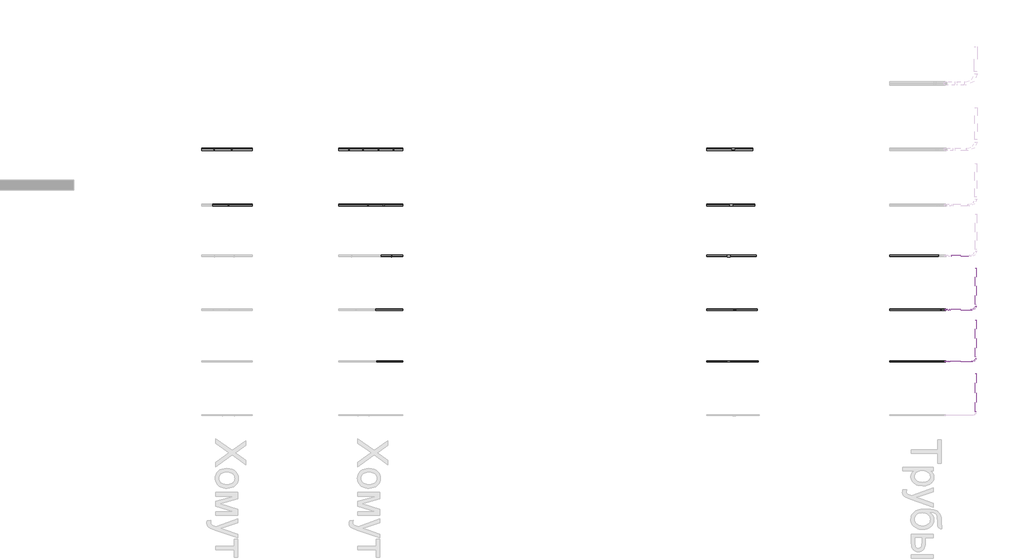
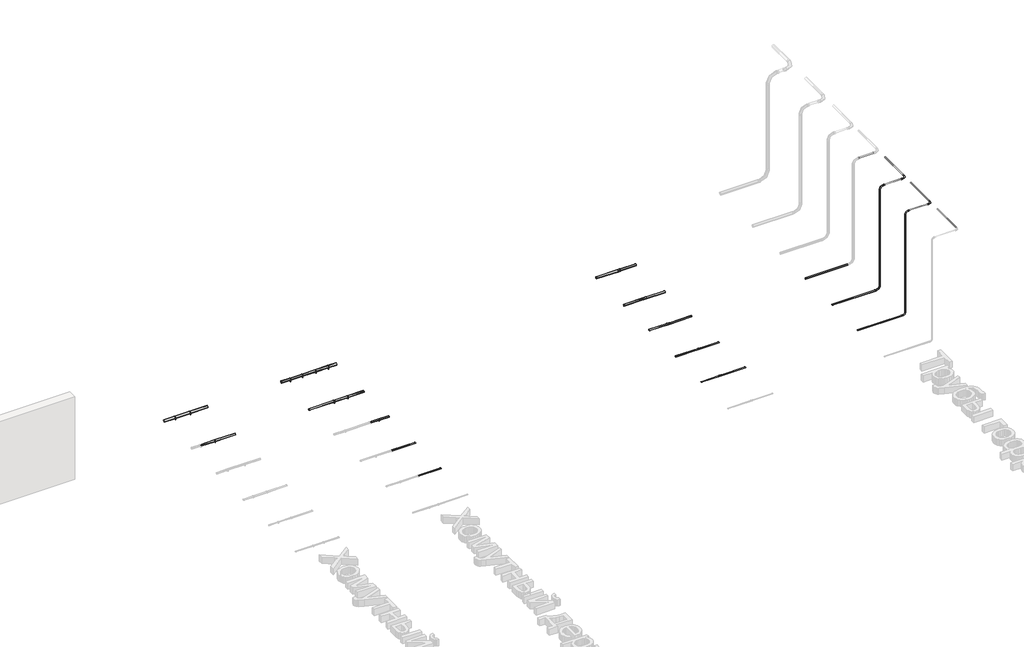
# One storey, part 8 of 33: 38 cable carrier segments, 21 cable carrier fittings.
"""IFC4 building model written with IfcOpenShell, lengths in millimetres."""

from ifc_helpers import new_model, si_unit, point, frame, frame_2d, origin, place, context, project, spatial, circle_curve, trimmed, segment, composite_curve, outline, extrude, transform, mapped, element, save
from components import cable_carrier_fitting_26b4114a, cable_carrier_fitting_255bd7b2, cable_carrier_fitting_a83b23f9, cable_carrier_fitting_802f24f7, cable_carrier_fitting_33a13964, cable_carrier_fitting_f47d66c9, cable_carrier_fitting_301d3040, cable_carrier_fitting_0edfbe70, cable_carrier_fitting_1836c814, cable_carrier_fitting_958c0bbb, cable_carrier_fitting_216e78f6, cable_carrier_fitting_60fb8931

model = new_model("IFC4")

# Units and contexts
model_context = context("Model", 3, world=origin())
ifc_project = project(units=[si_unit("LENGTHUNIT", "METRE", prefix="MILLI")], contexts=[model_context])

# Site, building, storey
site = spatial("IfcSite", under=ifc_project)
building = spatial("IfcBuilding", under=site)
storey = spatial("IfcBuildingStorey", under=building, Name="Уровень 1", Elevation=0.0)

# Cable carrier fittings
placement = place(None, origin())
cable_carrier_fitting_shape = cable_carrier_fitting_26b4114a(model_context)
element("IfcCableCarrierFitting", 1, ObjectType="Муфта для гофрированных труб, прозрачная GFLEX D ИЭК : CTA10D-GFLEX20-K08-100", at=placement, inside=storey, context=model_context, shape_type="MappedRepresentation", body=[
    mapped(cable_carrier_fitting_shape, transform((70826.5318866, 1027.6255993, 45.929251), x_axis=(1.0, 0.0, 0.0), y_axis=(0.0, 1.0, 0.0), z_axis=(0.0, 0.0, 1.0))),
])
cable_carrier_fitting_2_shape = cable_carrier_fitting_255bd7b2(model_context)
element("IfcCableCarrierFitting", 2, ObjectType="Муфта для гофрированных труб, прозрачная GFLEX D ИЭК : CTA10D-GFLEX25-K08-050", at=placement, inside=storey, context=model_context, shape_type="MappedRepresentation", body=[
    mapped(cable_carrier_fitting_2_shape, transform((70942.3626967, 2047.6255993, 45.929251), x_axis=(1.0, 0.0, 0.0), y_axis=(0.0, 1.0, 0.0), z_axis=(0.0, 0.0, 1.0))),
])
cable_carrier_fitting_3_shape = cable_carrier_fitting_a83b23f9(model_context)
element("IfcCableCarrierFitting", 3, ObjectType="Муфта для гофрированных труб, прозрачная GFLEX D ИЭК : CTA10D-GFLEX32-K08-025", at=placement, inside=storey, context=model_context, shape_type="MappedRepresentation", body=[
    mapped(cable_carrier_fitting_3_shape, transform((70831.5376839, 3107.6255993, 45.929251), x_axis=(1.0, 0.0, 0.0), y_axis=(0.0, 1.0, 0.0), z_axis=(0.0, 0.0, 1.0))),
])
cable_carrier_fitting_4_shape = cable_carrier_fitting_802f24f7(model_context)
element("IfcCableCarrierFitting", 4, ObjectType="Муфта для гофрированных труб, прозрачная GFLEX D ИЭК : CTA10D-GFLEX40-K08-020", at=placement, inside=storey, context=model_context, shape_type="MappedRepresentation", body=[
    mapped(cable_carrier_fitting_4_shape, transform((70872.466935, 4107.6255993, 45.929251), x_axis=(1.0, 0.0, 0.0), y_axis=(0.0, 1.0, 0.0), z_axis=(0.0, 0.0, 1.0))),
])
cable_carrier_fitting_5_shape = cable_carrier_fitting_33a13964(model_context)
element("IfcCableCarrierFitting", 5, ObjectType="Муфта для гофрированных труб, прозрачная GFLEX D ИЭК : CTA10D-GFLEX50-K08-020", at=placement, inside=storey, context=model_context, shape_type="MappedRepresentation", body=[
    mapped(cable_carrier_fitting_5_shape, transform((70913.396186, 5207.6255993, 45.929251), x_axis=(1.0, 0.0, 0.0), y_axis=(0.0, 1.0, 0.0), z_axis=(0.0, 0.0, 1.0))),
])
cable_carrier_fitting_6_shape = cable_carrier_fitting_f47d66c9(model_context)
element("IfcCableCarrierFitting", 6, ObjectType="Хомутный держатель CFC : CTA10D-CFC40-K41-050", at=placement, inside=storey, context=model_context, shape_type="MappedRepresentation", body=[
    mapped(cable_carrier_fitting_6_shape, transform((60976.3966923, 4107.6255993, 45.929251), x_axis=(-1.0, 0.0, 0.0), y_axis=(0.0, -1.0, 0.0), z_axis=(0.0, 0.0, 1.0))),
])
cable_carrier_fitting_7_shape = cable_carrier_fitting_301d3040(model_context)
element("IfcCableCarrierFitting", 7, ObjectType="Хомутный держатель CFC : CTA10D-CFC50-K41-025", at=placement, inside=storey, context=model_context, shape_type="MappedRepresentation", body=[
    mapped(cable_carrier_fitting_7_shape, transform((60691.9225515, 5207.6255993, 45.929251), x_axis=(-1.0, 0.0, 0.0), y_axis=(0.0, -1.0, 0.0), z_axis=(0.0, 0.0, 1.0))),
])
element("IfcCableCarrierFitting", 8, ObjectType="Хомутный держатель CFC : CTA10D-CFC50-K41-025", at=placement, inside=storey, context=model_context, shape_type="MappedRepresentation", body=[
    mapped(cable_carrier_fitting_7_shape, transform((61037.0378446, 5207.6255993, 45.929251), x_axis=(-1.0, 0.0, 0.0), y_axis=(0.0, -1.0, 0.0), z_axis=(0.0, 0.0, 1.0))),
])
cable_carrier_fitting_8_shape = cable_carrier_fitting_0edfbe70(model_context)
element("IfcCableCarrierFitting", 9, ObjectType="Хомутный держатель со стяжкой CFF2 32-63 мм IEK : Хомутный держатель со стяжкой CFF2 32-63 мм IEK", at=placement, inside=storey, context=model_context, shape_type="MappedRepresentation", body=[
    mapped(cable_carrier_fitting_8_shape, transform((64185.9173731, 3107.6255993, 45.929251), x_axis=(-1.0, 0.0, 0.0), y_axis=(0.0, -1.0, 0.0), z_axis=(0.0, 0.0, 1.0))),
])
cable_carrier_fitting_9_shape = cable_carrier_fitting_1836c814(model_context)
element("IfcCableCarrierFitting", 10, ObjectType="Хомутный держатель со стяжкой CFF2 32-63 мм IEK : Хомутный держатель со стяжкой CFF2 32-63 мм IEK", at=placement, inside=storey, context=model_context, shape_type="MappedRepresentation", body=[
    mapped(cable_carrier_fitting_9_shape, transform((64032.8333887, 4107.6255993, 45.929251), x_axis=(-1.0, 0.0, 0.0), y_axis=(0.0, -1.0, 0.0), z_axis=(0.0, 0.0, 1.0))),
])
element("IfcCableCarrierFitting", 11, ObjectType="Хомутный держатель со стяжкой CFF2 32-63 мм IEK : Хомутный держатель со стяжкой CFF2 32-63 мм IEK", at=placement, inside=storey, context=model_context, shape_type="MappedRepresentation", body=[
    mapped(cable_carrier_fitting_9_shape, transform((63720.3903317, 4107.6255993, 45.929251), x_axis=(-1.0, 0.0, 0.0), y_axis=(0.0, -1.0, 0.0), z_axis=(0.0, 0.0, 1.0))),
])
cable_carrier_fitting_10_shape = cable_carrier_fitting_958c0bbb(model_context)
element("IfcCableCarrierFitting", 12, ObjectType="Хомутный держатель со стяжкой CFF2 32-63 мм IEK : Хомутный держатель со стяжкой CFF2 32-63 мм IEK", at=placement, inside=storey, context=model_context, shape_type="MappedRepresentation", body=[
    mapped(cable_carrier_fitting_10_shape, transform((64220.7092234, 5207.6255993, 45.929251), x_axis=(-1.0, 0.0, 0.0), y_axis=(0.0, -1.0, 0.0), z_axis=(0.0, 0.0, 1.0))),
])
element("IfcCableCarrierFitting", 13, ObjectType="Хомутный держатель со стяжкой CFF2 32-63 мм IEK : Хомутный держатель со стяжкой CFF2 32-63 мм IEK", at=placement, inside=storey, context=model_context, shape_type="MappedRepresentation", body=[
    mapped(cable_carrier_fitting_10_shape, transform((63928.2429132, 5207.6255993, 45.929251), x_axis=(-1.0, 0.0, 0.0), y_axis=(0.0, -1.0, 0.0), z_axis=(0.0, 0.0, 1.0))),
])
element("IfcCableCarrierFitting", 14, ObjectType="Хомутный держатель со стяжкой CFF2 32-63 мм IEK : Хомутный держатель со стяжкой CFF2 32-63 мм IEK", at=placement, inside=storey, context=model_context, shape_type="MappedRepresentation", body=[
    mapped(cable_carrier_fitting_10_shape, transform((63625.5995093, 5207.6255993, 45.929251), x_axis=(-1.0, 0.0, 0.0), y_axis=(0.0, -1.0, 0.0), z_axis=(0.0, 0.0, 1.0))),
])
element("IfcCableCarrierFitting", 15, ObjectType="Хомутный держатель со стяжкой CFF2 32-63 мм IEK : Хомутный держатель со стяжкой CFF2 32-63 мм IEK", at=placement, inside=storey, context=model_context, shape_type="MappedRepresentation", body=[
    mapped(cable_carrier_fitting_10_shape, transform((63346.9345672, 5207.6255993, 45.929251), x_axis=(-1.0, 0.0, 0.0), y_axis=(0.0, -1.0, 0.0), z_axis=(0.0, 0.0, 1.0))),
])
cable_carrier_fitting_11_shape = cable_carrier_fitting_216e78f6(model_context)
element("IfcCableCarrierFitting", 16, ObjectType="Отвод Трубы гофрированные ПВХ с зондом : Отвод Трубы гофрированные ПВХ с зондом", at=placement, inside=storey, context=model_context, shape_type="MappedRepresentation", body=[
    mapped(cable_carrier_fitting_11_shape, transform((75094.4472755, 1027.6255993, 45.929251), x_axis=(1.0, 0.0, 0.0), y_axis=(0.0, 0.0, 1.0), z_axis=(0.0, -1.0, 0.0))),
])
element("IfcCableCarrierFitting", 17, ObjectType="Отвод Трубы гофрированные ПВХ с зондом : Отвод Трубы гофрированные ПВХ с зондом", at=placement, inside=storey, context=model_context, shape_type="MappedRepresentation", body=[
    mapped(cable_carrier_fitting_11_shape, transform((75094.4472755, 1027.6255993, 2545.929251), x_axis=(0.0, 0.0, 1.0), y_axis=(1.0, 0.0, 0.0), z_axis=(0.0, 1.0, 0.0))),
])
element("IfcCableCarrierFitting", 18, ObjectType="Отвод Трубы гофрированные ПВХ с зондом : Отвод Трубы гофрированные ПВХ с зондом", at=placement, inside=storey, context=model_context, shape_type="MappedRepresentation", body=[
    mapped(cable_carrier_fitting_11_shape, transform((75694.4472755, 1027.6255993, 2545.929251), x_axis=(1.0, 0.0, 0.0), y_axis=(0.0, 1.0, 0.0), z_axis=(0.0, 0.0, 1.0))),
])
cable_carrier_fitting_12_shape = cable_carrier_fitting_60fb8931(model_context)
element("IfcCableCarrierFitting", 19, ObjectType="Отвод Трубы гофрированные ПВХ с зондом : Отвод Трубы гофрированные ПВХ с зондом", at=placement, inside=storey, context=model_context, shape_type="MappedRepresentation", body=[
    mapped(cable_carrier_fitting_12_shape, transform((75094.4472755, 2047.6255993, 45.929251), x_axis=(1.0, 0.0, 0.0), y_axis=(0.0, 0.0, 1.0), z_axis=(0.0, -1.0, 0.0))),
])
element("IfcCableCarrierFitting", 20, ObjectType="Отвод Трубы гофрированные ПВХ с зондом : Отвод Трубы гофрированные ПВХ с зондом", at=placement, inside=storey, context=model_context, shape_type="MappedRepresentation", body=[
    mapped(cable_carrier_fitting_12_shape, transform((75094.4472755, 2047.6255993, 2545.929251), x_axis=(0.0, 0.0, 1.0), y_axis=(1.0, 0.0, 0.0), z_axis=(0.0, 1.0, 0.0))),
])
element("IfcCableCarrierFitting", 21, ObjectType="Отвод Трубы гофрированные ПВХ с зондом : Отвод Трубы гофрированные ПВХ с зондом", at=placement, inside=storey, context=model_context, shape_type="MappedRepresentation", body=[
    mapped(cable_carrier_fitting_12_shape, transform((75694.4472755, 2047.6255993, 2545.929251), x_axis=(1.0, 0.0, 0.0), y_axis=(0.0, 1.0, 0.0), z_axis=(0.0, 0.0, 1.0))),
])

# Cable carrier segments
element("IfcCableCarrierSegment", 22, ObjectType="Трубы гофрированные ПВХ с зондом", at=placement, inside=storey, context=model_context, shape_type="SweptSolid", body=[
    extrude(outline(composite_curve([segment(trimmed(circle_curve(frame_2d((2545.929251, 75694.4472755)), 8.0), [point((2545.929251, 75702.4472755))], [point((2553.929251, 75694.4472755))], False, "CARTESIAN"), True, "CONTINUOUS"), segment(trimmed(circle_curve(frame_2d((2545.929251, 75694.4472755)), 8.0), [point((2553.929251, 75694.4472755))], [point((2545.929251, 75686.4472755))], False, "CARTESIAN"), True, "CONTINUOUS"), segment(trimmed(circle_curve(frame_2d((2545.929251, 75694.4472755)), 8.0), [point((2545.929251, 75686.4472755))], [point((2537.929251, 75694.4472755))], False, "CARTESIAN"), True, "CONTINUOUS"), segment(trimmed(circle_curve(frame_2d((2545.929251, 75694.4472755)), 8.0), [point((2537.929251, 75694.4472755))], [point((2545.929251, 75702.4472755))], False, "CARTESIAN"), True, "CONTINUOUS")], self_intersect=False)), frame((0.0, 34.7069993, 0.0), z_axis=(0.0, 1.0, 0.0), x_axis=(0.0, 0.0, 1.0)), (0.0, 0.0, 1.0), 752.9186),
])
element("IfcCableCarrierSegment", 23, ObjectType="Трубы гофрированные ПВХ с зондом", at=placement, inside=storey, context=model_context, shape_type="SweptSolid", body=[
    extrude(outline(composite_curve([segment(trimmed(circle_curve(frame_2d((1027.6255993, 45.929251)), 10.0), [point((1017.6255993, 45.929251))], [point((1027.6255993, 55.929251))], False, "CARTESIAN"), True, "CONTINUOUS"), segment(trimmed(circle_curve(frame_2d((1027.6255993, 45.929251)), 10.0), [point((1027.6255993, 55.929251))], [point((1037.6255993, 45.929251))], False, "CARTESIAN"), True, "CONTINUOUS"), segment(trimmed(circle_curve(frame_2d((1027.6255993, 45.929251)), 10.0), [point((1037.6255993, 45.929251))], [point((1027.6255993, 35.929251))], False, "CARTESIAN"), True, "CONTINUOUS"), segment(trimmed(circle_curve(frame_2d((1027.6255993, 45.929251)), 10.0), [point((1027.6255993, 35.929251))], [point((1017.6255993, 45.929251))], False, "CARTESIAN"), True, "CONTINUOUS")], self_intersect=False)), frame((73994.4472755, 0.0, 0.0), z_axis=(1.0, 0.0, 0.0), x_axis=(0.0, 1.0, 0.0)), (0.0, 0.0, 1.0), 1016.5102),
])
element("IfcCableCarrierSegment", 24, ObjectType="Трубы гофрированные ПВХ с зондом", at=placement, inside=storey, context=model_context, shape_type="SweptSolid", body=[
    extrude(outline(composite_curve([segment(trimmed(circle_curve(frame_2d((1027.6255993, 2545.929251)), 10.0), [point((1017.6255993, 2545.929251))], [point((1027.6255993, 2555.929251))], False, "CARTESIAN"), True, "CONTINUOUS"), segment(trimmed(circle_curve(frame_2d((1027.6255993, 2545.929251)), 10.0), [point((1027.6255993, 2555.929251))], [point((1037.6255993, 2545.929251))], False, "CARTESIAN"), True, "CONTINUOUS"), segment(trimmed(circle_curve(frame_2d((1027.6255993, 2545.929251)), 10.0), [point((1037.6255993, 2545.929251))], [point((1027.6255993, 2535.929251))], False, "CARTESIAN"), True, "CONTINUOUS"), segment(trimmed(circle_curve(frame_2d((1027.6255993, 2545.929251)), 10.0), [point((1027.6255993, 2535.929251))], [point((1017.6255993, 2545.929251))], False, "CARTESIAN"), True, "CONTINUOUS")], self_intersect=False)), frame((75177.9370755, 0.0, 0.0), z_axis=(1.0, 0.0, 0.0), x_axis=(0.0, 1.0, 0.0)), (0.0, 0.0, 1.0), 433.0204),
])
element("IfcCableCarrierSegment", 25, ObjectType="Трубы гофрированные ПВХ с зондом", at=placement, inside=storey, context=model_context, shape_type="SweptSolid", body=[
    extrude(outline(composite_curve([segment(trimmed(circle_curve(frame_2d((75094.4472755, 1027.6255993)), 10.0), [point((75084.4472755, 1027.6255993))], [point((75094.4472755, 1037.6255993))], False, "CARTESIAN"), True, "CONTINUOUS"), segment(trimmed(circle_curve(frame_2d((75094.4472755, 1027.6255993)), 10.0), [point((75094.4472755, 1037.6255993))], [point((75104.4472755, 1027.6255993))], False, "CARTESIAN"), True, "CONTINUOUS"), segment(trimmed(circle_curve(frame_2d((75094.4472755, 1027.6255993)), 10.0), [point((75104.4472755, 1027.6255993))], [point((75094.4472755, 1017.6255993))], False, "CARTESIAN"), True, "CONTINUOUS"), segment(trimmed(circle_curve(frame_2d((75094.4472755, 1027.6255993)), 10.0), [point((75094.4472755, 1017.6255993))], [point((75084.4472755, 1027.6255993))], False, "CARTESIAN"), True, "CONTINUOUS")], self_intersect=False)), frame((0.0, 0.0, 129.419051), z_axis=(0.0, 0.0, 1.0), x_axis=(1.0, 0.0, 0.0)), (0.0, 0.0, 1.0), 2333.0204),
])
element("IfcCableCarrierSegment", 26, ObjectType="Трубы гофрированные ПВХ с зондом", at=placement, inside=storey, context=model_context, shape_type="SweptSolid", body=[
    extrude(outline(composite_curve([segment(trimmed(circle_curve(frame_2d((2545.929251, 75694.4472755)), 10.0), [point((2545.929251, 75704.4472755))], [point((2555.929251, 75694.4472755))], False, "CARTESIAN"), True, "CONTINUOUS"), segment(trimmed(circle_curve(frame_2d((2545.929251, 75694.4472755)), 10.0), [point((2555.929251, 75694.4472755))], [point((2545.929251, 75684.4472755))], False, "CARTESIAN"), True, "CONTINUOUS"), segment(trimmed(circle_curve(frame_2d((2545.929251, 75694.4472755)), 10.0), [point((2545.929251, 75684.4472755))], [point((2535.929251, 75694.4472755))], False, "CARTESIAN"), True, "CONTINUOUS"), segment(trimmed(circle_curve(frame_2d((2545.929251, 75694.4472755)), 10.0), [point((2535.929251, 75694.4472755))], [point((2545.929251, 75704.4472755))], False, "CARTESIAN"), True, "CONTINUOUS")], self_intersect=False)), frame((0.0, 1111.1153993, 0.0), z_axis=(0.0, 1.0, 0.0), x_axis=(0.0, 0.0, 1.0)), (0.0, 0.0, 1.0), 736.5102),
])
element("IfcCableCarrierSegment", 27, ObjectType="Трубы гофрированные ПВХ с зондом", at=placement, inside=storey, context=model_context, shape_type="SweptSolid", body=[
    extrude(outline(composite_curve([segment(trimmed(circle_curve(frame_2d((2047.6255993, 45.929251)), 12.5), [point((2035.1255993, 45.929251))], [point((2047.6255993, 58.429251))], False, "CARTESIAN"), True, "CONTINUOUS"), segment(trimmed(circle_curve(frame_2d((2047.6255993, 45.929251)), 12.5), [point((2047.6255993, 58.429251))], [point((2060.1255993, 45.929251))], False, "CARTESIAN"), True, "CONTINUOUS"), segment(trimmed(circle_curve(frame_2d((2047.6255993, 45.929251)), 12.5), [point((2060.1255993, 45.929251))], [point((2047.6255993, 33.429251))], False, "CARTESIAN"), True, "CONTINUOUS"), segment(trimmed(circle_curve(frame_2d((2047.6255993, 45.929251)), 12.5), [point((2047.6255993, 33.429251))], [point((2035.1255993, 45.929251))], False, "CARTESIAN"), True, "CONTINUOUS")], self_intersect=False)), frame((73994.4472755, 0.0, 0.0), z_axis=(1.0, 0.0, 0.0), x_axis=(0.0, 1.0, 0.0)), (0.0, 0.0, 1.0), 997.1046),
])
element("IfcCableCarrierSegment", 28, ObjectType="Трубы гофрированные ПВХ с зондом", at=placement, inside=storey, context=model_context, shape_type="SweptSolid", body=[
    extrude(outline(composite_curve([segment(trimmed(circle_curve(frame_2d((2047.6255993, 2545.929251)), 12.5), [point((2035.1255993, 2545.929251))], [point((2047.6255993, 2558.429251))], False, "CARTESIAN"), True, "CONTINUOUS"), segment(trimmed(circle_curve(frame_2d((2047.6255993, 2545.929251)), 12.5), [point((2047.6255993, 2558.429251))], [point((2060.1255993, 2545.929251))], False, "CARTESIAN"), True, "CONTINUOUS"), segment(trimmed(circle_curve(frame_2d((2047.6255993, 2545.929251)), 12.5), [point((2060.1255993, 2545.929251))], [point((2047.6255993, 2533.429251))], False, "CARTESIAN"), True, "CONTINUOUS"), segment(trimmed(circle_curve(frame_2d((2047.6255993, 2545.929251)), 12.5), [point((2047.6255993, 2533.429251))], [point((2035.1255993, 2545.929251))], False, "CARTESIAN"), True, "CONTINUOUS")], self_intersect=False)), frame((75197.3426755, 0.0, 0.0), z_axis=(1.0, 0.0, 0.0), x_axis=(0.0, 1.0, 0.0)), (0.0, 0.0, 1.0), 394.2092),
])
element("IfcCableCarrierSegment", 29, ObjectType="Трубы гофрированные ПВХ с зондом", at=placement, inside=storey, context=model_context, shape_type="SweptSolid", body=[
    extrude(outline(composite_curve([segment(trimmed(circle_curve(frame_2d((75094.4472755, 2047.6255993)), 12.5), [point((75081.9472755, 2047.6255993))], [point((75094.4472755, 2060.1255993))], False, "CARTESIAN"), True, "CONTINUOUS"), segment(trimmed(circle_curve(frame_2d((75094.4472755, 2047.6255993)), 12.5), [point((75094.4472755, 2060.1255993))], [point((75106.9472755, 2047.6255993))], False, "CARTESIAN"), True, "CONTINUOUS"), segment(trimmed(circle_curve(frame_2d((75094.4472755, 2047.6255993)), 12.5), [point((75106.9472755, 2047.6255993))], [point((75094.4472755, 2035.1255993))], False, "CARTESIAN"), True, "CONTINUOUS"), segment(trimmed(circle_curve(frame_2d((75094.4472755, 2047.6255993)), 12.5), [point((75094.4472755, 2035.1255993))], [point((75081.9472755, 2047.6255993))], False, "CARTESIAN"), True, "CONTINUOUS")], self_intersect=False)), frame((0.0, 0.0, 148.824651), z_axis=(0.0, 0.0, 1.0), x_axis=(1.0, 0.0, 0.0)), (0.0, 0.0, 1.0), 2294.2092),
])
element("IfcCableCarrierSegment", 30, ObjectType="Трубы гофрированные ПВХ с зондом", at=placement, inside=storey, context=model_context, shape_type="SweptSolid", body=[
    extrude(outline(composite_curve([segment(trimmed(circle_curve(frame_2d((2545.929251, 75694.4472755)), 12.5), [point((2545.929251, 75706.9472755))], [point((2558.429251, 75694.4472755))], False, "CARTESIAN"), True, "CONTINUOUS"), segment(trimmed(circle_curve(frame_2d((2545.929251, 75694.4472755)), 12.5), [point((2558.429251, 75694.4472755))], [point((2545.929251, 75681.9472755))], False, "CARTESIAN"), True, "CONTINUOUS"), segment(trimmed(circle_curve(frame_2d((2545.929251, 75694.4472755)), 12.5), [point((2545.929251, 75681.9472755))], [point((2533.429251, 75694.4472755))], False, "CARTESIAN"), True, "CONTINUOUS"), segment(trimmed(circle_curve(frame_2d((2545.929251, 75694.4472755)), 12.5), [point((2533.429251, 75694.4472755))], [point((2545.929251, 75706.9472755))], False, "CARTESIAN"), True, "CONTINUOUS")], self_intersect=False)), frame((0.0, 2150.5209993, 0.0), z_axis=(0.0, 1.0, 0.0), x_axis=(0.0, 0.0, 1.0)), (0.0, 0.0, 1.0), 717.1046),
])
element("IfcCableCarrierSegment", 31, ObjectType="Трубы гофрированные ПВХ с зондом", at=placement, inside=storey, context=model_context, shape_type="SweptSolid", body=[
    extrude(outline(composite_curve([segment(trimmed(circle_curve(frame_2d((3107.6255993, 45.929251)), 16.0), [point((3091.6255993, 45.929251))], [point((3107.6255993, 61.929251))], False, "CARTESIAN"), True, "CONTINUOUS"), segment(trimmed(circle_curve(frame_2d((3107.6255993, 45.929251)), 16.0), [point((3107.6255993, 61.929251))], [point((3123.6255993, 45.929251))], False, "CARTESIAN"), True, "CONTINUOUS"), segment(trimmed(circle_curve(frame_2d((3107.6255993, 45.929251)), 16.0), [point((3123.6255993, 45.929251))], [point((3107.6255993, 29.929251))], False, "CARTESIAN"), True, "CONTINUOUS"), segment(trimmed(circle_curve(frame_2d((3107.6255993, 45.929251)), 16.0), [point((3107.6255993, 29.929251))], [point((3091.6255993, 45.929251))], False, "CARTESIAN"), True, "CONTINUOUS")], self_intersect=False)), frame((73994.4472755, 0.0, 0.0), z_axis=(1.0, 0.0, 0.0), x_axis=(0.0, 1.0, 0.0)), (0.0, 0.0, 1.0), 971.73),
])
element("IfcCableCarrierSegment", 32, ObjectType="Трубы гофрированные ПВХ с зондом", at=placement, inside=storey, context=model_context, shape_type="SweptSolid", body=[
    extrude(outline(composite_curve([segment(trimmed(circle_curve(frame_2d((3107.6255993, 2545.929251)), 16.0), [point((3091.6255993, 2545.929251))], [point((3107.6255993, 2561.929251))], False, "CARTESIAN"), True, "CONTINUOUS"), segment(trimmed(circle_curve(frame_2d((3107.6255993, 2545.929251)), 16.0), [point((3107.6255993, 2561.929251))], [point((3123.6255993, 2545.929251))], False, "CARTESIAN"), True, "CONTINUOUS"), segment(trimmed(circle_curve(frame_2d((3107.6255993, 2545.929251)), 16.0), [point((3123.6255993, 2545.929251))], [point((3107.6255993, 2529.929251))], False, "CARTESIAN"), True, "CONTINUOUS"), segment(trimmed(circle_curve(frame_2d((3107.6255993, 2545.929251)), 16.0), [point((3107.6255993, 2529.929251))], [point((3091.6255993, 2545.929251))], False, "CARTESIAN"), True, "CONTINUOUS")], self_intersect=False)), frame((75222.7172755, 0.0, 0.0), z_axis=(1.0, 0.0, 0.0), x_axis=(0.0, 1.0, 0.0)), (0.0, 0.0, 1.0), 343.46),
])
element("IfcCableCarrierSegment", 33, ObjectType="Трубы гофрированные ПВХ с зондом", at=placement, inside=storey, context=model_context, shape_type="SweptSolid", body=[
    extrude(outline(composite_curve([segment(trimmed(circle_curve(frame_2d((1027.6255993, 45.929251)), 10.0), [point((1017.6255993, 45.929251))], [point((1027.6255993, 55.929251))], False, "CARTESIAN"), True, "CONTINUOUS"), segment(trimmed(circle_curve(frame_2d((1027.6255993, 45.929251)), 10.0), [point((1027.6255993, 55.929251))], [point((1037.6255993, 45.929251))], False, "CARTESIAN"), True, "CONTINUOUS"), segment(trimmed(circle_curve(frame_2d((1027.6255993, 45.929251)), 10.0), [point((1037.6255993, 45.929251))], [point((1027.6255993, 35.929251))], False, "CARTESIAN"), True, "CONTINUOUS"), segment(trimmed(circle_curve(frame_2d((1027.6255993, 45.929251)), 10.0), [point((1027.6255993, 35.929251))], [point((1017.6255993, 45.929251))], False, "CARTESIAN"), True, "CONTINUOUS")], self_intersect=False)), frame((70831.5318866, 0.0, 0.0), z_axis=(1.0, 0.0, 0.0), x_axis=(0.0, 1.0, 0.0)), (0.0, 0.0, 1.0), 579.4255889),
])
element("IfcCableCarrierSegment", 34, ObjectType="Трубы гофрированные ПВХ с зондом", at=placement, inside=storey, context=model_context, shape_type="SweptSolid", body=[
    extrude(outline(composite_curve([segment(trimmed(circle_curve(frame_2d((2047.6255993, 45.929251)), 12.5), [point((2035.1255993, 45.929251))], [point((2047.6255993, 58.429251))], False, "CARTESIAN"), True, "CONTINUOUS"), segment(trimmed(circle_curve(frame_2d((2047.6255993, 45.929251)), 12.5), [point((2047.6255993, 58.429251))], [point((2060.1255993, 45.929251))], False, "CARTESIAN"), True, "CONTINUOUS"), segment(trimmed(circle_curve(frame_2d((2047.6255993, 45.929251)), 12.5), [point((2060.1255993, 45.929251))], [point((2047.6255993, 33.429251))], False, "CARTESIAN"), True, "CONTINUOUS"), segment(trimmed(circle_curve(frame_2d((2047.6255993, 45.929251)), 12.5), [point((2047.6255993, 33.429251))], [point((2035.1255993, 45.929251))], False, "CARTESIAN"), True, "CONTINUOUS")], self_intersect=False)), frame((70947.3626967, 0.0, 0.0), z_axis=(1.0, 0.0, 0.0), x_axis=(0.0, 1.0, 0.0)), (0.0, 0.0, 1.0), 444.1891787),
])
element("IfcCableCarrierSegment", 35, ObjectType="Трубы гофрированные ПВХ с зондом", at=placement, inside=storey, context=model_context, shape_type="SweptSolid", body=[
    extrude(outline(composite_curve([segment(trimmed(circle_curve(frame_2d((3107.6255993, 45.929251)), 16.0), [point((3091.6255993, 45.929251))], [point((3107.6255993, 61.929251))], False, "CARTESIAN"), True, "CONTINUOUS"), segment(trimmed(circle_curve(frame_2d((3107.6255993, 45.929251)), 16.0), [point((3107.6255993, 61.929251))], [point((3123.6255993, 45.929251))], False, "CARTESIAN"), True, "CONTINUOUS"), segment(trimmed(circle_curve(frame_2d((3107.6255993, 45.929251)), 16.0), [point((3123.6255993, 45.929251))], [point((3107.6255993, 29.929251))], False, "CARTESIAN"), True, "CONTINUOUS"), segment(trimmed(circle_curve(frame_2d((3107.6255993, 45.929251)), 16.0), [point((3107.6255993, 29.929251))], [point((3091.6255993, 45.929251))], False, "CARTESIAN"), True, "CONTINUOUS")], self_intersect=False)), frame((70836.5376839, 0.0, 0.0), z_axis=(1.0, 0.0, 0.0), x_axis=(0.0, 1.0, 0.0)), (0.0, 0.0, 1.0), 529.6395915),
])
element("IfcCableCarrierSegment", 36, ObjectType="Трубы гофрированные ПВХ с зондом", at=placement, inside=storey, context=model_context, shape_type="SweptSolid", body=[
    extrude(outline(composite_curve([segment(trimmed(circle_curve(frame_2d((4107.6255993, 45.929251)), 20.0), [point((4087.6255993, 45.929251))], [point((4107.6255993, 65.929251))], False, "CARTESIAN"), True, "CONTINUOUS"), segment(trimmed(circle_curve(frame_2d((4107.6255993, 45.929251)), 20.0), [point((4107.6255993, 65.929251))], [point((4127.6255993, 45.929251))], False, "CARTESIAN"), True, "CONTINUOUS"), segment(trimmed(circle_curve(frame_2d((4107.6255993, 45.929251)), 20.0), [point((4127.6255993, 45.929251))], [point((4107.6255993, 25.929251))], False, "CARTESIAN"), True, "CONTINUOUS"), segment(trimmed(circle_curve(frame_2d((4107.6255993, 45.929251)), 20.0), [point((4107.6255993, 25.929251))], [point((4087.6255993, 45.929251))], False, "CARTESIAN"), True, "CONTINUOUS")], self_intersect=False)), frame((70877.466935, 0.0, 0.0), z_axis=(1.0, 0.0, 0.0), x_axis=(0.0, 1.0, 0.0)), (0.0, 0.0, 1.0), 460.8973405),
])
element("IfcCableCarrierSegment", 37, ObjectType="Трубы гофрированные ПВХ с зондом", at=placement, inside=storey, context=model_context, shape_type="SweptSolid", body=[
    extrude(outline(composite_curve([segment(trimmed(circle_curve(frame_2d((5207.6255993, 45.929251)), 25.0), [point((5182.6255993, 45.929251))], [point((5207.6255993, 70.929251))], False, "CARTESIAN"), True, "CONTINUOUS"), segment(trimmed(circle_curve(frame_2d((5207.6255993, 45.929251)), 25.0), [point((5207.6255993, 70.929251))], [point((5232.6255993, 45.929251))], False, "CARTESIAN"), True, "CONTINUOUS"), segment(trimmed(circle_curve(frame_2d((5207.6255993, 45.929251)), 25.0), [point((5232.6255993, 45.929251))], [point((5207.6255993, 20.929251))], False, "CARTESIAN"), True, "CONTINUOUS"), segment(trimmed(circle_curve(frame_2d((5207.6255993, 45.929251)), 25.0), [point((5207.6255993, 20.929251))], [point((5182.6255993, 45.929251))], False, "CARTESIAN"), True, "CONTINUOUS")], self_intersect=False)), frame((70918.396186, 0.0, 0.0), z_axis=(1.0, 0.0, 0.0), x_axis=(0.0, 1.0, 0.0)), (0.0, 0.0, 1.0), 385.5764895),
])
element("IfcCableCarrierSegment", 38, ObjectType="Трубы гофрированные ПВХ с зондом", at=placement, inside=storey, context=model_context, shape_type="SweptSolid", body=[
    extrude(outline(composite_curve([segment(trimmed(circle_curve(frame_2d((5207.6255993, 45.929251)), 25.0), [point((5182.6255993, 45.929251))], [point((5207.6255993, 70.929251))], False, "CARTESIAN"), True, "CONTINUOUS"), segment(trimmed(circle_curve(frame_2d((5207.6255993, 45.929251)), 25.0), [point((5207.6255993, 70.929251))], [point((5232.6255993, 45.929251))], False, "CARTESIAN"), True, "CONTINUOUS"), segment(trimmed(circle_curve(frame_2d((5207.6255993, 45.929251)), 25.0), [point((5232.6255993, 45.929251))], [point((5207.6255993, 20.929251))], False, "CARTESIAN"), True, "CONTINUOUS"), segment(trimmed(circle_curve(frame_2d((5207.6255993, 45.929251)), 25.0), [point((5207.6255993, 20.929251))], [point((5182.6255993, 45.929251))], False, "CARTESIAN"), True, "CONTINUOUS")], self_intersect=False)), frame((70394.4472755, 0.0, 0.0), z_axis=(1.0, 0.0, 0.0), x_axis=(0.0, 1.0, 0.0)), (0.0, 0.0, 1.0), 513.9489105),
])
element("IfcCableCarrierSegment", 39, ObjectType="Трубы гофрированные ПВХ с зондом", at=placement, inside=storey, context=model_context, shape_type="SweptSolid", body=[
    extrude(outline(composite_curve([segment(trimmed(circle_curve(frame_2d((4107.6255993, 45.929251)), 20.0), [point((4087.6255993, 45.929251))], [point((4107.6255993, 65.929251))], False, "CARTESIAN"), True, "CONTINUOUS"), segment(trimmed(circle_curve(frame_2d((4107.6255993, 45.929251)), 20.0), [point((4107.6255993, 65.929251))], [point((4127.6255993, 45.929251))], False, "CARTESIAN"), True, "CONTINUOUS"), segment(trimmed(circle_curve(frame_2d((4107.6255993, 45.929251)), 20.0), [point((4127.6255993, 45.929251))], [point((4107.6255993, 25.929251))], False, "CARTESIAN"), True, "CONTINUOUS"), segment(trimmed(circle_curve(frame_2d((4107.6255993, 45.929251)), 20.0), [point((4107.6255993, 25.929251))], [point((4087.6255993, 45.929251))], False, "CARTESIAN"), True, "CONTINUOUS")], self_intersect=False)), frame((70394.4472755, 0.0, 0.0), z_axis=(1.0, 0.0, 0.0), x_axis=(0.0, 1.0, 0.0)), (0.0, 0.0, 1.0), 473.0196595),
])
element("IfcCableCarrierSegment", 40, ObjectType="Трубы гофрированные ПВХ с зондом", at=placement, inside=storey, context=model_context, shape_type="SweptSolid", body=[
    extrude(outline(composite_curve([segment(trimmed(circle_curve(frame_2d((3107.6255993, 45.929251)), 16.0), [point((3091.6255993, 45.929251))], [point((3107.6255993, 61.929251))], False, "CARTESIAN"), True, "CONTINUOUS"), segment(trimmed(circle_curve(frame_2d((3107.6255993, 45.929251)), 16.0), [point((3107.6255993, 61.929251))], [point((3123.6255993, 45.929251))], False, "CARTESIAN"), True, "CONTINUOUS"), segment(trimmed(circle_curve(frame_2d((3107.6255993, 45.929251)), 16.0), [point((3123.6255993, 45.929251))], [point((3107.6255993, 29.929251))], False, "CARTESIAN"), True, "CONTINUOUS"), segment(trimmed(circle_curve(frame_2d((3107.6255993, 45.929251)), 16.0), [point((3107.6255993, 29.929251))], [point((3091.6255993, 45.929251))], False, "CARTESIAN"), True, "CONTINUOUS")], self_intersect=False)), frame((70394.4472755, 0.0, 0.0), z_axis=(1.0, 0.0, 0.0), x_axis=(0.0, 1.0, 0.0)), (0.0, 0.0, 1.0), 432.0904085),
])
element("IfcCableCarrierSegment", 41, ObjectType="Трубы гофрированные ПВХ с зондом", at=placement, inside=storey, context=model_context, shape_type="SweptSolid", body=[
    extrude(outline(composite_curve([segment(trimmed(circle_curve(frame_2d((2047.6255993, 45.929251)), 12.5), [point((2035.1255993, 45.929251))], [point((2047.6255993, 58.429251))], False, "CARTESIAN"), True, "CONTINUOUS"), segment(trimmed(circle_curve(frame_2d((2047.6255993, 45.929251)), 12.5), [point((2047.6255993, 58.429251))], [point((2060.1255993, 45.929251))], False, "CARTESIAN"), True, "CONTINUOUS"), segment(trimmed(circle_curve(frame_2d((2047.6255993, 45.929251)), 12.5), [point((2060.1255993, 45.929251))], [point((2047.6255993, 33.429251))], False, "CARTESIAN"), True, "CONTINUOUS"), segment(trimmed(circle_curve(frame_2d((2047.6255993, 45.929251)), 12.5), [point((2047.6255993, 33.429251))], [point((2035.1255993, 45.929251))], False, "CARTESIAN"), True, "CONTINUOUS")], self_intersect=False)), frame((70394.4472755, 0.0, 0.0), z_axis=(1.0, 0.0, 0.0), x_axis=(0.0, 1.0, 0.0)), (0.0, 0.0, 1.0), 542.9154213),
])
element("IfcCableCarrierSegment", 42, ObjectType="Трубы гофрированные ПВХ с зондом", at=placement, inside=storey, context=model_context, shape_type="SweptSolid", body=[
    extrude(outline(composite_curve([segment(trimmed(circle_curve(frame_2d((1027.6255993, 45.929251)), 10.0), [point((1017.6255993, 45.929251))], [point((1027.6255993, 55.929251))], False, "CARTESIAN"), True, "CONTINUOUS"), segment(trimmed(circle_curve(frame_2d((1027.6255993, 45.929251)), 10.0), [point((1027.6255993, 55.929251))], [point((1037.6255993, 45.929251))], False, "CARTESIAN"), True, "CONTINUOUS"), segment(trimmed(circle_curve(frame_2d((1027.6255993, 45.929251)), 10.0), [point((1037.6255993, 45.929251))], [point((1027.6255993, 35.929251))], False, "CARTESIAN"), True, "CONTINUOUS"), segment(trimmed(circle_curve(frame_2d((1027.6255993, 45.929251)), 10.0), [point((1027.6255993, 35.929251))], [point((1017.6255993, 45.929251))], False, "CARTESIAN"), True, "CONTINUOUS")], self_intersect=False)), frame((70394.4472755, 0.0, 0.0), z_axis=(1.0, 0.0, 0.0), x_axis=(0.0, 1.0, 0.0)), (0.0, 0.0, 1.0), 427.0846111),
])
element("IfcCableCarrierSegment", 43, ObjectType="Трубы гладкие жесткие ПВХ", at=placement, inside=storey, context=model_context, shape_type="SweptSolid", body=[
    extrude(outline(composite_curve([segment(trimmed(circle_curve(frame_2d((5207.6255993, 45.929251)), 25.0), [point((5232.6255993, 45.929251))], [point((5207.6255993, 20.929251))], False, "CARTESIAN"), True, "CONTINUOUS"), segment(trimmed(circle_curve(frame_2d((5207.6255993, 45.929251)), 25.0), [point((5207.6255993, 20.929251))], [point((5182.6255993, 45.929251))], False, "CARTESIAN"), True, "CONTINUOUS"), segment(trimmed(circle_curve(frame_2d((5207.6255993, 45.929251)), 25.0), [point((5182.6255993, 45.929251))], [point((5207.6255993, 70.929251))], False, "CARTESIAN"), True, "CONTINUOUS"), segment(trimmed(circle_curve(frame_2d((5207.6255993, 45.929251)), 25.0), [point((5207.6255993, 70.929251))], [point((5232.6255993, 45.929251))], False, "CARTESIAN"), True, "CONTINUOUS")], self_intersect=False)), frame((60444.1402163, 0.0, 0.0), z_axis=(1.0, 0.0, 0.0), x_axis=(0.0, 1.0, 0.0)), (0.0, 0.0, 1.0), 247.7823352),
])
element("IfcCableCarrierSegment", 44, ObjectType="Трубы гладкие жесткие ПВХ", at=placement, inside=storey, context=model_context, shape_type="SweptSolid", body=[
    extrude(outline(composite_curve([segment(trimmed(circle_curve(frame_2d((4107.6255993, 45.929251)), 20.0), [point((4127.6255993, 45.929251))], [point((4107.6255993, 25.929251))], False, "CARTESIAN"), True, "CONTINUOUS"), segment(trimmed(circle_curve(frame_2d((4107.6255993, 45.929251)), 20.0), [point((4107.6255993, 25.929251))], [point((4087.6255993, 45.929251))], False, "CARTESIAN"), True, "CONTINUOUS"), segment(trimmed(circle_curve(frame_2d((4107.6255993, 45.929251)), 20.0), [point((4087.6255993, 45.929251))], [point((4107.6255993, 65.929251))], False, "CARTESIAN"), True, "CONTINUOUS"), segment(trimmed(circle_curve(frame_2d((4107.6255993, 45.929251)), 20.0), [point((4107.6255993, 65.929251))], [point((4127.6255993, 45.929251))], False, "CARTESIAN"), True, "CONTINUOUS")], self_intersect=False)), frame((60645.3267891, 0.0, 0.0), z_axis=(1.0, 0.0, 0.0), x_axis=(0.0, 1.0, 0.0)), (0.0, 0.0, 1.0), 331.0699032),
])
element("IfcCableCarrierSegment", 45, ObjectType="Трубы гладкие жесткие ПВХ", at=placement, inside=storey, context=model_context, shape_type="SweptSolid", body=[
    extrude(outline(composite_curve([segment(trimmed(circle_curve(frame_2d((4107.6255993, 45.929251)), 20.0), [point((4127.6255993, 45.929251))], [point((4107.6255993, 25.929251))], False, "CARTESIAN"), True, "CONTINUOUS"), segment(trimmed(circle_curve(frame_2d((4107.6255993, 45.929251)), 20.0), [point((4107.6255993, 25.929251))], [point((4087.6255993, 45.929251))], False, "CARTESIAN"), True, "CONTINUOUS"), segment(trimmed(circle_curve(frame_2d((4107.6255993, 45.929251)), 20.0), [point((4087.6255993, 45.929251))], [point((4107.6255993, 65.929251))], False, "CARTESIAN"), True, "CONTINUOUS"), segment(trimmed(circle_curve(frame_2d((4107.6255993, 45.929251)), 20.0), [point((4107.6255993, 65.929251))], [point((4127.6255993, 45.929251))], False, "CARTESIAN"), True, "CONTINUOUS")], self_intersect=False)), frame((60976.3966923, 0.0, 0.0), z_axis=(1.0, 0.0, 0.0), x_axis=(0.0, 1.0, 0.0)), (0.0, 0.0, 1.0), 467.743524),
])
element("IfcCableCarrierSegment", 46, ObjectType="Трубы гладкие жесткие ПВХ", at=placement, inside=storey, context=model_context, shape_type="SweptSolid", body=[
    extrude(outline(composite_curve([segment(trimmed(circle_curve(frame_2d((5207.6255993, 45.929251)), 25.0), [point((5232.6255993, 45.929251))], [point((5207.6255993, 20.929251))], False, "CARTESIAN"), True, "CONTINUOUS"), segment(trimmed(circle_curve(frame_2d((5207.6255993, 45.929251)), 25.0), [point((5207.6255993, 20.929251))], [point((5182.6255993, 45.929251))], False, "CARTESIAN"), True, "CONTINUOUS"), segment(trimmed(circle_curve(frame_2d((5207.6255993, 45.929251)), 25.0), [point((5182.6255993, 45.929251))], [point((5207.6255993, 70.929251))], False, "CARTESIAN"), True, "CONTINUOUS"), segment(trimmed(circle_curve(frame_2d((5207.6255993, 45.929251)), 25.0), [point((5207.6255993, 70.929251))], [point((5232.6255993, 45.929251))], False, "CARTESIAN"), True, "CONTINUOUS")], self_intersect=False)), frame((60691.9225515, 0.0, 0.0), z_axis=(1.0, 0.0, 0.0), x_axis=(0.0, 1.0, 0.0)), (0.0, 0.0, 1.0), 345.1152931),
])
element("IfcCableCarrierSegment", 47, ObjectType="Трубы гладкие жесткие ПВХ", at=placement, inside=storey, context=model_context, shape_type="SweptSolid", body=[
    extrude(outline(composite_curve([segment(trimmed(circle_curve(frame_2d((5207.6255993, 45.929251)), 25.0), [point((5232.6255993, 45.929251))], [point((5207.6255993, 20.929251))], False, "CARTESIAN"), True, "CONTINUOUS"), segment(trimmed(circle_curve(frame_2d((5207.6255993, 45.929251)), 25.0), [point((5207.6255993, 20.929251))], [point((5182.6255993, 45.929251))], False, "CARTESIAN"), True, "CONTINUOUS"), segment(trimmed(circle_curve(frame_2d((5207.6255993, 45.929251)), 25.0), [point((5182.6255993, 45.929251))], [point((5207.6255993, 70.929251))], False, "CARTESIAN"), True, "CONTINUOUS"), segment(trimmed(circle_curve(frame_2d((5207.6255993, 45.929251)), 25.0), [point((5207.6255993, 70.929251))], [point((5232.6255993, 45.929251))], False, "CARTESIAN"), True, "CONTINUOUS")], self_intersect=False)), frame((61037.0378446, 0.0, 0.0), z_axis=(1.0, 0.0, 0.0), x_axis=(0.0, 1.0, 0.0)), (0.0, 0.0, 1.0), 407.1023717),
])
element("IfcCableCarrierSegment", 48, ObjectType="Трубы гладкие жесткие ПВХ", at=placement, inside=storey, context=model_context, shape_type="SweptSolid", body=[
    extrude(outline(composite_curve([segment(trimmed(circle_curve(frame_2d((4107.6255993, 45.929251)), 20.0), [point((4127.6255993, 45.929251))], [point((4107.6255993, 25.929251))], False, "CARTESIAN"), True, "CONTINUOUS"), segment(trimmed(circle_curve(frame_2d((4107.6255993, 45.929251)), 20.0), [point((4107.6255993, 25.929251))], [point((4087.6255993, 45.929251))], False, "CARTESIAN"), True, "CONTINUOUS"), segment(trimmed(circle_curve(frame_2d((4107.6255993, 45.929251)), 20.0), [point((4087.6255993, 45.929251))], [point((4107.6255993, 65.929251))], False, "CARTESIAN"), True, "CONTINUOUS"), segment(trimmed(circle_curve(frame_2d((4107.6255993, 45.929251)), 20.0), [point((4107.6255993, 65.929251))], [point((4127.6255993, 45.929251))], False, "CARTESIAN"), True, "CONTINUOUS")], self_intersect=False)), frame((63144.1402163, 0.0, 0.0), z_axis=(1.0, 0.0, 0.0), x_axis=(0.0, 1.0, 0.0)), (0.0, 0.0, 1.0), 576.2501153),
])
element("IfcCableCarrierSegment", 49, ObjectType="Трубы гладкие жесткие ПВХ", at=placement, inside=storey, context=model_context, shape_type="SweptSolid", body=[
    extrude(outline(composite_curve([segment(trimmed(circle_curve(frame_2d((5207.6255993, 45.929251)), 25.0), [point((5232.6255993, 45.929251))], [point((5207.6255993, 20.929251))], False, "CARTESIAN"), True, "CONTINUOUS"), segment(trimmed(circle_curve(frame_2d((5207.6255993, 45.929251)), 25.0), [point((5207.6255993, 20.929251))], [point((5182.6255993, 45.929251))], False, "CARTESIAN"), True, "CONTINUOUS"), segment(trimmed(circle_curve(frame_2d((5207.6255993, 45.929251)), 25.0), [point((5182.6255993, 45.929251))], [point((5207.6255993, 70.929251))], False, "CARTESIAN"), True, "CONTINUOUS"), segment(trimmed(circle_curve(frame_2d((5207.6255993, 45.929251)), 25.0), [point((5207.6255993, 70.929251))], [point((5232.6255993, 45.929251))], False, "CARTESIAN"), True, "CONTINUOUS")], self_intersect=False)), frame((63144.1402163, 0.0, 0.0), z_axis=(1.0, 0.0, 0.0), x_axis=(0.0, 1.0, 0.0)), (0.0, 0.0, 1.0), 202.7943509),
])
element("IfcCableCarrierSegment", 50, ObjectType="Трубы гладкие жесткие ПВХ", at=placement, inside=storey, context=model_context, shape_type="SweptSolid", body=[
    extrude(outline(composite_curve([segment(trimmed(circle_curve(frame_2d((1027.6255993, 45.929251)), 10.0), [point((1037.6255993, 45.929251))], [point((1027.6255993, 35.929251))], False, "CARTESIAN"), True, "CONTINUOUS"), segment(trimmed(circle_curve(frame_2d((1027.6255993, 45.929251)), 10.0), [point((1027.6255993, 35.929251))], [point((1017.6255993, 45.929251))], False, "CARTESIAN"), True, "CONTINUOUS"), segment(trimmed(circle_curve(frame_2d((1027.6255993, 45.929251)), 10.0), [point((1017.6255993, 45.929251))], [point((1027.6255993, 55.929251))], False, "CARTESIAN"), True, "CONTINUOUS"), segment(trimmed(circle_curve(frame_2d((1027.6255993, 45.929251)), 10.0), [point((1027.6255993, 55.929251))], [point((1037.6255993, 45.929251))], False, "CARTESIAN"), True, "CONTINUOUS")], self_intersect=False)), frame((63882.7352035, 0.0, 0.0), z_axis=(1.0, 0.0, 0.0), x_axis=(0.0, 1.0, 0.0)), (0.0, 0.0, 1.0), 521.4050129),
])
element("IfcCableCarrierSegment", 51, ObjectType="Трубы гладкие жесткие ПВХ", at=placement, inside=storey, context=model_context, shape_type="SweptSolid", body=[
    extrude(outline(composite_curve([segment(trimmed(circle_curve(frame_2d((2047.6255993, 45.929251)), 12.5), [point((2060.1255993, 45.929251))], [point((2047.6255993, 33.429251))], False, "CARTESIAN"), True, "CONTINUOUS"), segment(trimmed(circle_curve(frame_2d((2047.6255993, 45.929251)), 12.5), [point((2047.6255993, 33.429251))], [point((2035.1255993, 45.929251))], False, "CARTESIAN"), True, "CONTINUOUS"), segment(trimmed(circle_curve(frame_2d((2047.6255993, 45.929251)), 12.5), [point((2035.1255993, 45.929251))], [point((2047.6255993, 58.429251))], False, "CARTESIAN"), True, "CONTINUOUS"), segment(trimmed(circle_curve(frame_2d((2047.6255993, 45.929251)), 12.5), [point((2047.6255993, 58.429251))], [point((2060.1255993, 45.929251))], False, "CARTESIAN"), True, "CONTINUOUS")], self_intersect=False)), frame((63861.3217189, 0.0, 0.0), z_axis=(1.0, 0.0, 0.0), x_axis=(0.0, 1.0, 0.0)), (0.0, 0.0, 1.0), 542.8184975),
])
element("IfcCableCarrierSegment", 52, ObjectType="Трубы гладкие жесткие ПВХ", at=placement, inside=storey, context=model_context, shape_type="SweptSolid", body=[
    extrude(outline(composite_curve([segment(trimmed(circle_curve(frame_2d((3107.6255993, 45.929251)), 16.0), [point((3123.6255993, 45.929251))], [point((3107.6255993, 29.929251))], False, "CARTESIAN"), True, "CONTINUOUS"), segment(trimmed(circle_curve(frame_2d((3107.6255993, 45.929251)), 16.0), [point((3107.6255993, 29.929251))], [point((3091.6255993, 45.929251))], False, "CARTESIAN"), True, "CONTINUOUS"), segment(trimmed(circle_curve(frame_2d((3107.6255993, 45.929251)), 16.0), [point((3091.6255993, 45.929251))], [point((3107.6255993, 61.929251))], False, "CARTESIAN"), True, "CONTINUOUS"), segment(trimmed(circle_curve(frame_2d((3107.6255993, 45.929251)), 16.0), [point((3107.6255993, 61.929251))], [point((3123.6255993, 45.929251))], False, "CARTESIAN"), True, "CONTINUOUS")], self_intersect=False)), frame((63971.4548746, 0.0, 0.0), z_axis=(1.0, 0.0, 0.0), x_axis=(0.0, 1.0, 0.0)), (0.0, 0.0, 1.0), 214.4624985),
])
element("IfcCableCarrierSegment", 53, ObjectType="Трубы гладкие жесткие ПВХ", at=placement, inside=storey, context=model_context, shape_type="SweptSolid", body=[
    extrude(outline(composite_curve([segment(trimmed(circle_curve(frame_2d((3107.6255993, 45.929251)), 16.0), [point((3123.6255993, 45.929251))], [point((3107.6255993, 29.929251))], False, "CARTESIAN"), True, "CONTINUOUS"), segment(trimmed(circle_curve(frame_2d((3107.6255993, 45.929251)), 16.0), [point((3107.6255993, 29.929251))], [point((3091.6255993, 45.929251))], False, "CARTESIAN"), True, "CONTINUOUS"), segment(trimmed(circle_curve(frame_2d((3107.6255993, 45.929251)), 16.0), [point((3091.6255993, 45.929251))], [point((3107.6255993, 61.929251))], False, "CARTESIAN"), True, "CONTINUOUS"), segment(trimmed(circle_curve(frame_2d((3107.6255993, 45.929251)), 16.0), [point((3107.6255993, 61.929251))], [point((3123.6255993, 45.929251))], False, "CARTESIAN"), True, "CONTINUOUS")], self_intersect=False)), frame((64185.9173731, 0.0, 0.0), z_axis=(1.0, 0.0, 0.0), x_axis=(0.0, 1.0, 0.0)), (0.0, 0.0, 1.0), 218.2228432),
])
element("IfcCableCarrierSegment", 54, ObjectType="Трубы гладкие жесткие ПВХ", at=placement, inside=storey, context=model_context, shape_type="SweptSolid", body=[
    extrude(outline(composite_curve([segment(trimmed(circle_curve(frame_2d((4107.6255993, 45.929251)), 20.0), [point((4127.6255993, 45.929251))], [point((4107.6255993, 25.929251))], False, "CARTESIAN"), True, "CONTINUOUS"), segment(trimmed(circle_curve(frame_2d((4107.6255993, 45.929251)), 20.0), [point((4107.6255993, 25.929251))], [point((4087.6255993, 45.929251))], False, "CARTESIAN"), True, "CONTINUOUS"), segment(trimmed(circle_curve(frame_2d((4107.6255993, 45.929251)), 20.0), [point((4087.6255993, 45.929251))], [point((4107.6255993, 65.929251))], False, "CARTESIAN"), True, "CONTINUOUS"), segment(trimmed(circle_curve(frame_2d((4107.6255993, 45.929251)), 20.0), [point((4107.6255993, 65.929251))], [point((4127.6255993, 45.929251))], False, "CARTESIAN"), True, "CONTINUOUS")], self_intersect=False)), frame((64032.8333887, 0.0, 0.0), z_axis=(1.0, 0.0, 0.0), x_axis=(0.0, 1.0, 0.0)), (0.0, 0.0, 1.0), 371.3068277),
])
element("IfcCableCarrierSegment", 55, ObjectType="Трубы гладкие жесткие ПВХ", at=placement, inside=storey, context=model_context, shape_type="SweptSolid", body=[
    extrude(outline(composite_curve([segment(trimmed(circle_curve(frame_2d((4107.6255993, 45.929251)), 20.0), [point((4127.6255993, 45.929251))], [point((4107.6255993, 25.929251))], False, "CARTESIAN"), True, "CONTINUOUS"), segment(trimmed(circle_curve(frame_2d((4107.6255993, 45.929251)), 20.0), [point((4107.6255993, 25.929251))], [point((4087.6255993, 45.929251))], False, "CARTESIAN"), True, "CONTINUOUS"), segment(trimmed(circle_curve(frame_2d((4107.6255993, 45.929251)), 20.0), [point((4087.6255993, 45.929251))], [point((4107.6255993, 65.929251))], False, "CARTESIAN"), True, "CONTINUOUS"), segment(trimmed(circle_curve(frame_2d((4107.6255993, 45.929251)), 20.0), [point((4107.6255993, 65.929251))], [point((4127.6255993, 45.929251))], False, "CARTESIAN"), True, "CONTINUOUS")], self_intersect=False)), frame((63720.3903317, 0.0, 0.0), z_axis=(1.0, 0.0, 0.0), x_axis=(0.0, 1.0, 0.0)), (0.0, 0.0, 1.0), 312.443057),
])
element("IfcCableCarrierSegment", 56, ObjectType="Трубы гладкие жесткие ПВХ", at=placement, inside=storey, context=model_context, shape_type="SweptSolid", body=[
    extrude(outline(composite_curve([segment(trimmed(circle_curve(frame_2d((5207.6255993, 45.929251)), 25.0), [point((5232.6255993, 45.929251))], [point((5207.6255993, 20.929251))], False, "CARTESIAN"), True, "CONTINUOUS"), segment(trimmed(circle_curve(frame_2d((5207.6255993, 45.929251)), 25.0), [point((5207.6255993, 20.929251))], [point((5182.6255993, 45.929251))], False, "CARTESIAN"), True, "CONTINUOUS"), segment(trimmed(circle_curve(frame_2d((5207.6255993, 45.929251)), 25.0), [point((5182.6255993, 45.929251))], [point((5207.6255993, 70.929251))], False, "CARTESIAN"), True, "CONTINUOUS"), segment(trimmed(circle_curve(frame_2d((5207.6255993, 45.929251)), 25.0), [point((5207.6255993, 70.929251))], [point((5232.6255993, 45.929251))], False, "CARTESIAN"), True, "CONTINUOUS")], self_intersect=False)), frame((64220.7092234, 0.0, 0.0), z_axis=(1.0, 0.0, 0.0), x_axis=(0.0, 1.0, 0.0)), (0.0, 0.0, 1.0), 183.4309929),
])
element("IfcCableCarrierSegment", 57, ObjectType="Трубы гладкие жесткие ПВХ", at=placement, inside=storey, context=model_context, shape_type="SweptSolid", body=[
    extrude(outline(composite_curve([segment(trimmed(circle_curve(frame_2d((5207.6255993, 45.929251)), 25.0), [point((5232.6255993, 45.929251))], [point((5207.6255993, 20.929251))], False, "CARTESIAN"), True, "CONTINUOUS"), segment(trimmed(circle_curve(frame_2d((5207.6255993, 45.929251)), 25.0), [point((5207.6255993, 20.929251))], [point((5182.6255993, 45.929251))], False, "CARTESIAN"), True, "CONTINUOUS"), segment(trimmed(circle_curve(frame_2d((5207.6255993, 45.929251)), 25.0), [point((5182.6255993, 45.929251))], [point((5207.6255993, 70.929251))], False, "CARTESIAN"), True, "CONTINUOUS"), segment(trimmed(circle_curve(frame_2d((5207.6255993, 45.929251)), 25.0), [point((5207.6255993, 70.929251))], [point((5232.6255993, 45.929251))], False, "CARTESIAN"), True, "CONTINUOUS")], self_intersect=False)), frame((63928.2429132, 0.0, 0.0), z_axis=(1.0, 0.0, 0.0), x_axis=(0.0, 1.0, 0.0)), (0.0, 0.0, 1.0), 292.4663102),
])
element("IfcCableCarrierSegment", 58, ObjectType="Трубы гладкие жесткие ПВХ", at=placement, inside=storey, context=model_context, shape_type="SweptSolid", body=[
    extrude(outline(composite_curve([segment(trimmed(circle_curve(frame_2d((5207.6255993, 45.929251)), 25.0), [point((5232.6255993, 45.929251))], [point((5207.6255993, 20.929251))], False, "CARTESIAN"), True, "CONTINUOUS"), segment(trimmed(circle_curve(frame_2d((5207.6255993, 45.929251)), 25.0), [point((5207.6255993, 20.929251))], [point((5182.6255993, 45.929251))], False, "CARTESIAN"), True, "CONTINUOUS"), segment(trimmed(circle_curve(frame_2d((5207.6255993, 45.929251)), 25.0), [point((5182.6255993, 45.929251))], [point((5207.6255993, 70.929251))], False, "CARTESIAN"), True, "CONTINUOUS"), segment(trimmed(circle_curve(frame_2d((5207.6255993, 45.929251)), 25.0), [point((5207.6255993, 70.929251))], [point((5232.6255993, 45.929251))], False, "CARTESIAN"), True, "CONTINUOUS")], self_intersect=False)), frame((63625.5995093, 0.0, 0.0), z_axis=(1.0, 0.0, 0.0), x_axis=(0.0, 1.0, 0.0)), (0.0, 0.0, 1.0), 302.6434039),
])
element("IfcCableCarrierSegment", 59, ObjectType="Трубы гладкие жесткие ПВХ", at=placement, inside=storey, context=model_context, shape_type="SweptSolid", body=[
    extrude(outline(composite_curve([segment(trimmed(circle_curve(frame_2d((5207.6255993, 45.929251)), 25.0), [point((5232.6255993, 45.929251))], [point((5207.6255993, 20.929251))], False, "CARTESIAN"), True, "CONTINUOUS"), segment(trimmed(circle_curve(frame_2d((5207.6255993, 45.929251)), 25.0), [point((5207.6255993, 20.929251))], [point((5182.6255993, 45.929251))], False, "CARTESIAN"), True, "CONTINUOUS"), segment(trimmed(circle_curve(frame_2d((5207.6255993, 45.929251)), 25.0), [point((5182.6255993, 45.929251))], [point((5207.6255993, 70.929251))], False, "CARTESIAN"), True, "CONTINUOUS"), segment(trimmed(circle_curve(frame_2d((5207.6255993, 45.929251)), 25.0), [point((5207.6255993, 70.929251))], [point((5232.6255993, 45.929251))], False, "CARTESIAN"), True, "CONTINUOUS")], self_intersect=False)), frame((63346.9345672, 0.0, 0.0), z_axis=(1.0, 0.0, 0.0), x_axis=(0.0, 1.0, 0.0)), (0.0, 0.0, 1.0), 278.664942),
])

save(model, "model.ifc")
